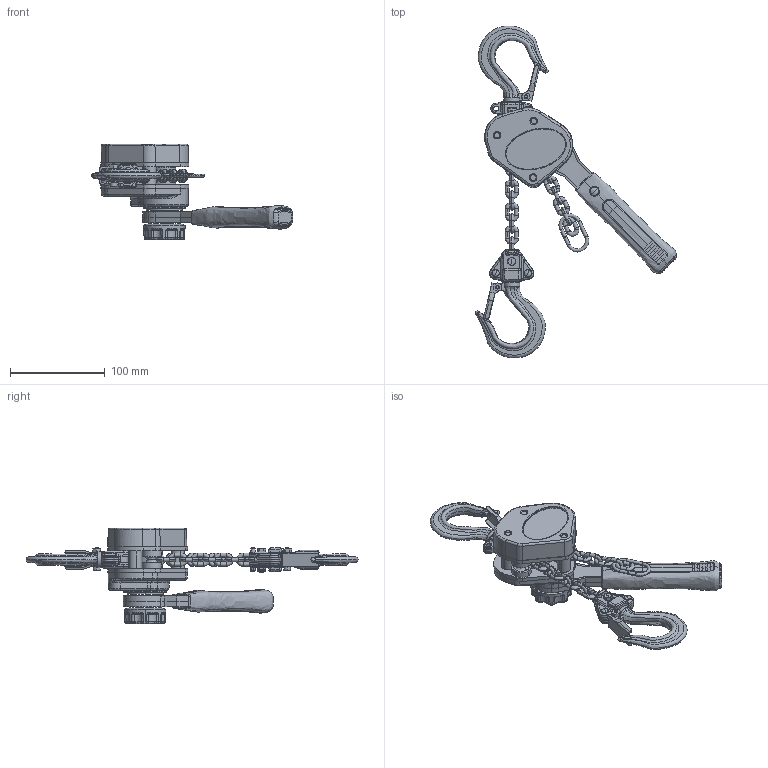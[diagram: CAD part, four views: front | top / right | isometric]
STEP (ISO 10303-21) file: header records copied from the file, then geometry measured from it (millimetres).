
FILE_DESCRIPTION (( 'STEP AP214' ), '1' );
FILE_NAME ('LX005.STEP', '2026-08-13T17:22:19', ( '' ), ( '' ), 'SwSTEP 2.0', 'SolidWorks 2026', '' );
FILE_SCHEMA (( 'AUTOMOTIVE_DESIGN' ));
Length unit declared in the file: metre
Products named in the file (1): LX005
Bounding box: 212.79 x 351.1 x 101.5 mm (x, y, z)
Surface area: 109650 mm2 (no closed solid volume)
Topology: 0 solids, 56 shells, 1304 faces, 3639 edges, 2292 vertices
Faces by surface type: bspline 1304
Entity records: 98986 total; most frequent: CARTESIAN_POINT 76495, ORIENTED_EDGE 6578, EDGE_CURVE 3556, B_SPLINE_CURVE_WITH_KNOTS 2575, VERTEX_POINT 2292, EDGE_LOOP 1414, ADVANCED_FACE 1304, FACE_OUTER_BOUND 1304
